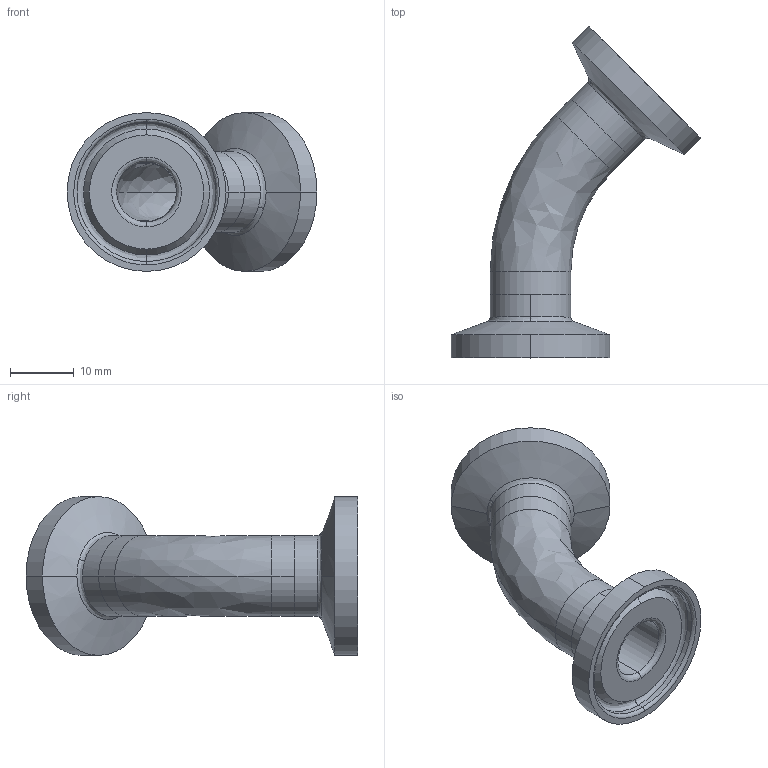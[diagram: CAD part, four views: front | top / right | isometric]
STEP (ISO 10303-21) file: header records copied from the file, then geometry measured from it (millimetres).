
FILE_DESCRIPTION (( 'STEP AP214' ), '1' );
FILE_NAME ('TEG2K6L.5-...STEP', '2016-05-22T06:58:33', ( 'eran' ), ( '' ), 'SwSTEP 2.0', 'SolidWorks 2016', '' );
FILE_SCHEMA (( 'AUTOMOTIVE_DESIGN' ));
Length unit declared in the file: millimetre
Products named in the file (1): TEG2K6L.5-..
Bounding box: 39.29 x 52.2 x 24.99 mm (x, y, z)
Volume: 5472.9 mm3; surface area: 5616.1 mm2
Topology: 3 solids, 3 shells, 60 faces, 136 edges, 84 vertices
Faces by surface type: cylinder 24, bspline 20, plane 8, cone 8
Entity records: 2000 total; most frequent: CARTESIAN_POINT 605, DIRECTION 306, ORIENTED_EDGE 272, AXIS2_PLACEMENT_3D 137, EDGE_CURVE 136, CIRCLE 96, VERTEX_POINT 84, EDGE_LOOP 68
